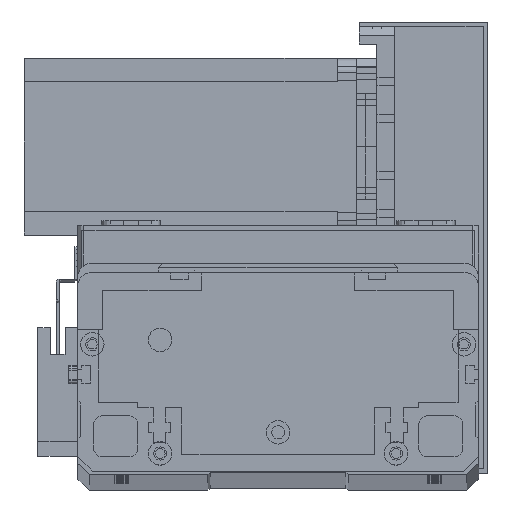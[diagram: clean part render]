
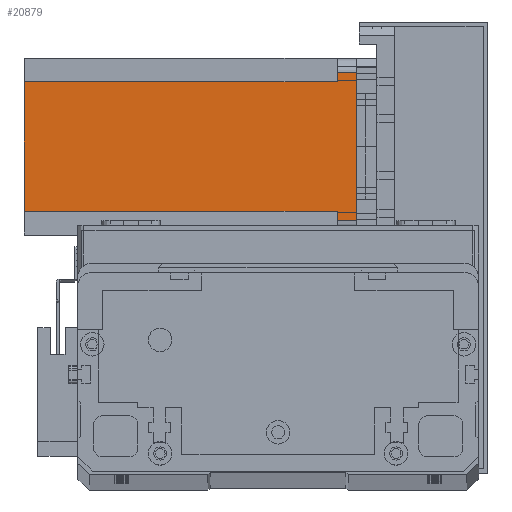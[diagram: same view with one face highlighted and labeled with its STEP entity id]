
A CAD part, top view. The second image highlights one B-rep face of the part: STEP entity #20879.
In plain terms, the highlighted planar face has unit normal (0, 0, 1) as drawn and (0, 1, 0) by its records, which use the part's own axes.
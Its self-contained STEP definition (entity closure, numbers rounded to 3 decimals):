
#105 = LINE ( 'NONE', #10124, #7589 ) ;
#565 = VERTEX_POINT ( 'NONE', #23659 ) ;
#662 = ORIENTED_EDGE ( 'NONE', *, *, #30536, .T. ) ;
#840 = EDGE_CURVE ( 'NONE', #6958, #5098, #11493, .T. ) ;
#2331 = DIRECTION ( 'NONE',  ( 0., 0., -1. ) ) ;
#2835 = AXIS2_PLACEMENT_3D ( 'NONE', #28943, #14754, #31235 ) ;
#3835 = CARTESIAN_POINT ( 'NONE',  ( 8., 60., -6.5 ) ) ;
#4399 = LINE ( 'NONE', #26582, #10970 ) ;
#4905 = VECTOR ( 'NONE', #25795, 1000. ) ;
#5098 = VERTEX_POINT ( 'NONE', #22344 ) ;
#6252 = VECTOR ( 'NONE', #8817, 1000. ) ;
#6958 = VERTEX_POINT ( 'NONE', #30063 ) ;
#7153 = LINE ( 'NONE', #17865, #19285 ) ;
#7421 = PLANE ( 'NONE',  #2835 ) ;
#7589 = VECTOR ( 'NONE', #14880, 1000. ) ;
#7597 = VECTOR ( 'NONE', #28684, 1000. ) ;
#8810 = EDGE_CURVE ( 'NONE', #565, #5098, #31119, .T. ) ;
#8817 = DIRECTION ( 'NONE',  ( -1., 0., 0. ) ) ;
#9396 = VERTEX_POINT ( 'NONE', #28182 ) ;
#9412 = ORIENTED_EDGE ( 'NONE', *, *, #23720, .F. ) ;
#10124 = CARTESIAN_POINT ( 'NONE',  ( 52., 60., -6.5 ) ) ;
#10970 = VECTOR ( 'NONE', #2331, 1000. ) ;
#11054 = DIRECTION ( 'NONE',  ( 0., 0., -1. ) ) ;
#11203 = CARTESIAN_POINT ( 'NONE',  ( 55., 60., -112.5 ) ) ;
#11493 = LINE ( 'NONE', #27126, #4905 ) ;
#11650 = CARTESIAN_POINT ( 'NONE',  ( 8., 60., -112.5 ) ) ;
#12334 = DIRECTION ( 'NONE',  ( -1., 0., 0. ) ) ;
#12731 = CARTESIAN_POINT ( 'NONE',  ( 8., 60., -6.5 ) ) ;
#13112 = CARTESIAN_POINT ( 'NONE',  ( 0., 60., 0. ) ) ;
#14078 = LINE ( 'NONE', #23987, #7597 ) ;
#14754 = DIRECTION ( 'NONE',  ( 0., 1., 0. ) ) ;
#14880 = DIRECTION ( 'NONE',  ( 1., 0., 0. ) ) ;
#15385 = ORIENTED_EDGE ( 'NONE', *, *, #840, .T. ) ;
#15461 = DIRECTION ( 'NONE',  ( -1., 0., 0. ) ) ;
#16350 = EDGE_CURVE ( 'NONE', #565, #18822, #17866, .T. ) ;
#16494 = ORIENTED_EDGE ( 'NONE', *, *, #8810, .F. ) ;
#17866 = LINE ( 'NONE', #11203, #28925 ) ;
#17865 = CARTESIAN_POINT ( 'NONE',  ( 0., 60., -112.5 ) ) ;
#17941 = EDGE_CURVE ( 'NONE', #9396, #18822, #105, .T. ) ;
#18079 = FACE_OUTER_BOUND ( 'NONE', #21704, .T. ) ;
#18659 = VECTOR ( 'NONE', #12334, 1000. ) ;
#18822 = VERTEX_POINT ( 'NONE', #28000 ) ;
#19285 = VECTOR ( 'NONE', #15461, 1000. ) ;
#20879 = ADVANCED_FACE ( 'NONE', ( #18079 ), #7421, .T. ) ;
#21704 = EDGE_LOOP ( 'NONE', ( #16494, #22729, #21786, #9412, #28342, #21985, #662, #15385 ) ) ;
#21786 = ORIENTED_EDGE ( 'NONE', *, *, #17941, .F. ) ;
#21985 = ORIENTED_EDGE ( 'NONE', *, *, #26030, .F. ) ;
#22344 = CARTESIAN_POINT ( 'NONE',  ( 5., 60., 0. ) ) ;
#22729 = ORIENTED_EDGE ( 'NONE', *, *, #16350, .T. ) ;
#23659 = CARTESIAN_POINT ( 'NONE',  ( 55., 60., 0. ) ) ;
#23720 = EDGE_CURVE ( 'NONE', #23798, #9396, #14078, .T. ) ;
#23798 = VERTEX_POINT ( 'NONE', #28871 ) ;
#23987 = CARTESIAN_POINT ( 'NONE',  ( 52., 60., -112.5 ) ) ;
#25288 = EDGE_CURVE ( 'NONE', #23798, #27670, #7153, .T. ) ;
#25469 = LINE ( 'NONE', #3835, #6252 ) ;
#25795 = DIRECTION ( 'NONE',  ( 0., 0., 1. ) ) ;
#26030 = EDGE_CURVE ( 'NONE', #28518, #27670, #4399, .T. ) ;
#26582 = CARTESIAN_POINT ( 'NONE',  ( 8., 60., -112.5 ) ) ;
#27126 = CARTESIAN_POINT ( 'NONE',  ( 5., 60., -112.5 ) ) ;
#27670 = VERTEX_POINT ( 'NONE', #11650 ) ;
#28000 = CARTESIAN_POINT ( 'NONE',  ( 55., 60., -6.5 ) ) ;
#28182 = CARTESIAN_POINT ( 'NONE',  ( 52., 60., -6.5 ) ) ;
#28342 = ORIENTED_EDGE ( 'NONE', *, *, #25288, .T. ) ;
#28518 = VERTEX_POINT ( 'NONE', #12731 ) ;
#28684 = DIRECTION ( 'NONE',  ( 0., 0., 1. ) ) ;
#28871 = CARTESIAN_POINT ( 'NONE',  ( 52., 60., -112.5 ) ) ;
#28925 = VECTOR ( 'NONE', #11054, 1000. ) ;
#28943 = CARTESIAN_POINT ( 'NONE',  ( 0., 60., -112.5 ) ) ;
#30063 = CARTESIAN_POINT ( 'NONE',  ( 5., 60., -6.5 ) ) ;
#30536 = EDGE_CURVE ( 'NONE', #28518, #6958, #25469, .T. ) ;
#31119 = LINE ( 'NONE', #13112, #18659 ) ;
#31235 = DIRECTION ( 'NONE',  ( 0., 0., 1. ) ) ;
